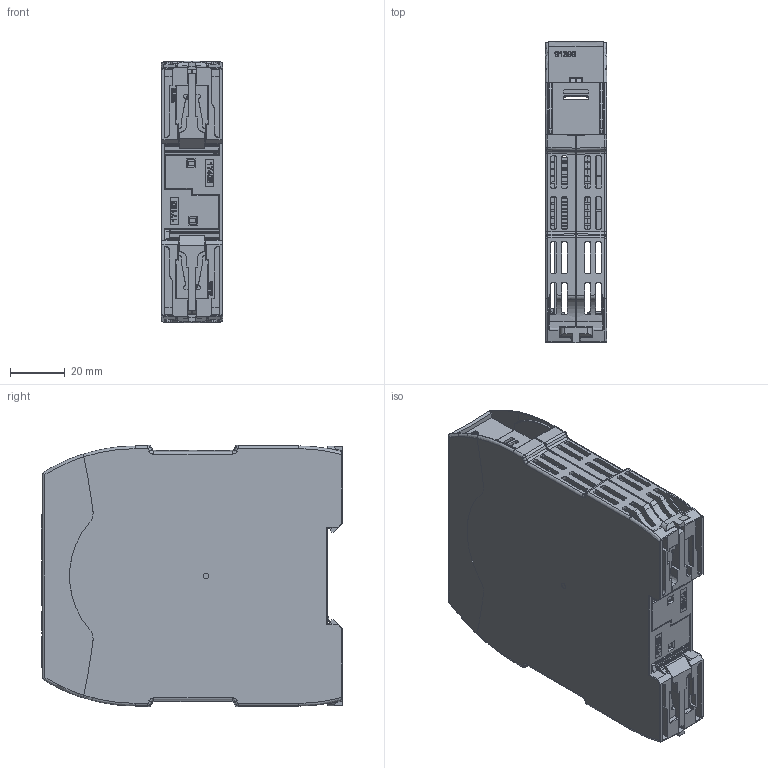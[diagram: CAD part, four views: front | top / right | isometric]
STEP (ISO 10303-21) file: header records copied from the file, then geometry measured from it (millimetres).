
FILE_DESCRIPTION((''),'2;1');
FILE_NAME('2037932','2025-07-09T07:11:43',('s.mayer'),(''),'CREO PARAMETRIC BY PTC INC, 2019292','CREO PARAMETRIC BY PTC INC, 2019292','');
FILE_SCHEMA(('AUTOMOTIVE_DESIGN { 1 0 10303 214 1 1 1 1 }'));
Products named in the file (1): 2037932
Bounding box: 22.5 x 110.53 x 96 mm (x, y, z)
Volume: 49493.7 mm3; surface area: 86897.9 mm2
Topology: 3 solids, 3 shells, 6618 faces, 18095 edges, 11507 vertices
Faces by surface type: plane 3709, cylinder 1817, extrusion 362, bspline 256, sphere 240, cone 158, torus 76
Entity records: 341497 total; most frequent: CARTESIAN_POINT 75158, ORIENTED_EDGE 36114, DIRECTION 29953, PRESENTATION_STYLE_ASSIGNMENT 24926, STYLED_ITEM 18423, CURVE_STYLE 18420, EDGE_CURVE 18057, VECTOR 12611
